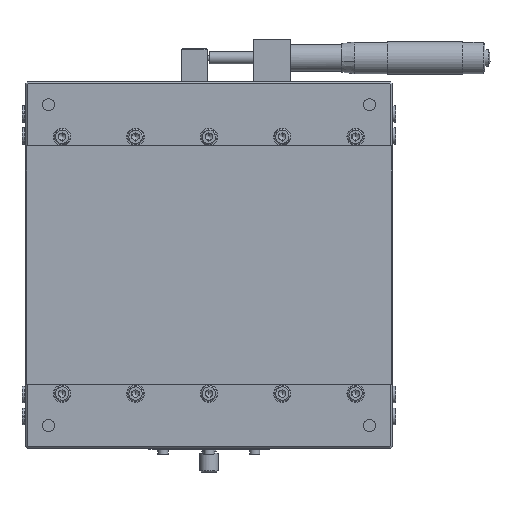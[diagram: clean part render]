
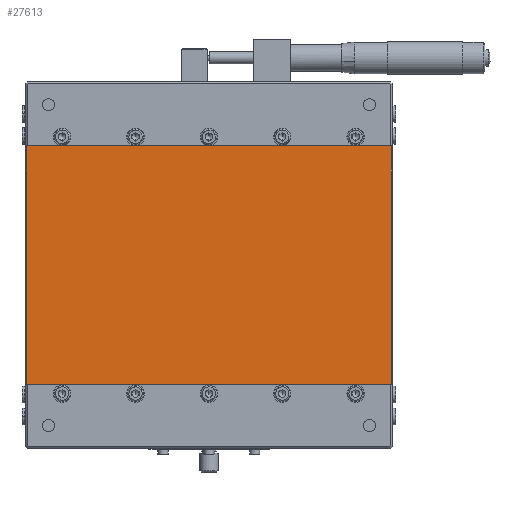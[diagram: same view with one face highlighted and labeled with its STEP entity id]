
A CAD part, front view. The second image highlights one B-rep face of the part: STEP entity #27613.
In plain terms, the highlighted planar face has unit normal (0, -1, 0).
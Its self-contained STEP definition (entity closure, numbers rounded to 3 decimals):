
#1485 = LINE ( 'NONE', #1533, #14361 ) ;
#1527 = LINE ( 'NONE', #1546, #14332 ) ;
#1533 = CARTESIAN_POINT ( 'NONE',  ( 173.568, -2.685, -65. ) ) ;
#1537 = DIRECTION ( 'NONE',  ( 1., 0., 0. ) ) ;
#1546 = CARTESIAN_POINT ( 'NONE',  ( 93.509, -2.685, -65. ) ) ;
#1550 = DIRECTION ( 'NONE',  ( 0., 0., 1. ) ) ;
#1559 = LINE ( 'NONE', #1562, #14296 ) ;
#1562 = CARTESIAN_POINT ( 'NONE',  ( 173.568, -2.685, 65. ) ) ;
#1564 = DIRECTION ( 'NONE',  ( -1., 0., 0. ) ) ;
#1566 = LINE ( 'NONE', #1569, #14283 ) ;
#1569 = CARTESIAN_POINT ( 'NONE',  ( -105.091, -2.685, -65. ) ) ;
#1571 = DIRECTION ( 'NONE',  ( 0., 0., -1. ) ) ;
#2575 = EDGE_CURVE ( 'NONE', #23410, #23412, #1485, .T. ) ;
#2577 = EDGE_CURVE ( 'NONE', #23412, #23398, #1527, .T. ) ;
#2579 = EDGE_CURVE ( 'NONE', #23398, #23402, #1559, .T. ) ;
#2580 = EDGE_CURVE ( 'NONE', #23402, #23410, #1566, .T. ) ;
#4811 = EDGE_LOOP ( 'NONE', ( #6606, #6605, #6604, #6603 ) ) ;
#6603 = ORIENTED_EDGE ( 'NONE', *, *, #2577, .T. ) ;
#6604 = ORIENTED_EDGE ( 'NONE', *, *, #2575, .T. ) ;
#6605 = ORIENTED_EDGE ( 'NONE', *, *, #2580, .T. ) ;
#6606 = ORIENTED_EDGE ( 'NONE', *, *, #2579, .T. ) ;
#9476 = CARTESIAN_POINT ( 'NONE',  ( 173.568, -2.685, -65. ) ) ;
#9484 = FACE_OUTER_BOUND ( 'NONE', #4811, .T. ) ;
#9485 = PLANE ( 'NONE',  #28767 ) ;
#9487 = DIRECTION ( 'NONE',  ( 0., -1., 0. ) ) ;
#9488 = DIRECTION ( 'NONE',  ( 0., 0., -1. ) ) ;
#14283 = VECTOR ( 'NONE', #1571, 1000. ) ;
#14296 = VECTOR ( 'NONE', #1564, 1000. ) ;
#14332 = VECTOR ( 'NONE', #1550, 1000. ) ;
#14361 = VECTOR ( 'NONE', #1537, 1000. ) ;
#18886 = CARTESIAN_POINT ( 'NONE',  ( 93.509, -2.685, 65. ) ) ;
#18888 = CARTESIAN_POINT ( 'NONE',  ( -105.091, -2.685, 65. ) ) ;
#18892 = CARTESIAN_POINT ( 'NONE',  ( -105.091, -2.685, -65. ) ) ;
#18893 = CARTESIAN_POINT ( 'NONE',  ( 93.509, -2.685, -65. ) ) ;
#23398 = VERTEX_POINT ( 'NONE', #18886 ) ;
#23402 = VERTEX_POINT ( 'NONE', #18888 ) ;
#23410 = VERTEX_POINT ( 'NONE', #18892 ) ;
#23412 = VERTEX_POINT ( 'NONE', #18893 ) ;
#27613 = ADVANCED_FACE ( 'NONE', ( #9484 ), #9485, .T. ) ;
#28767 = AXIS2_PLACEMENT_3D ( 'NONE', #9476, #9487, #9488 ) ;
